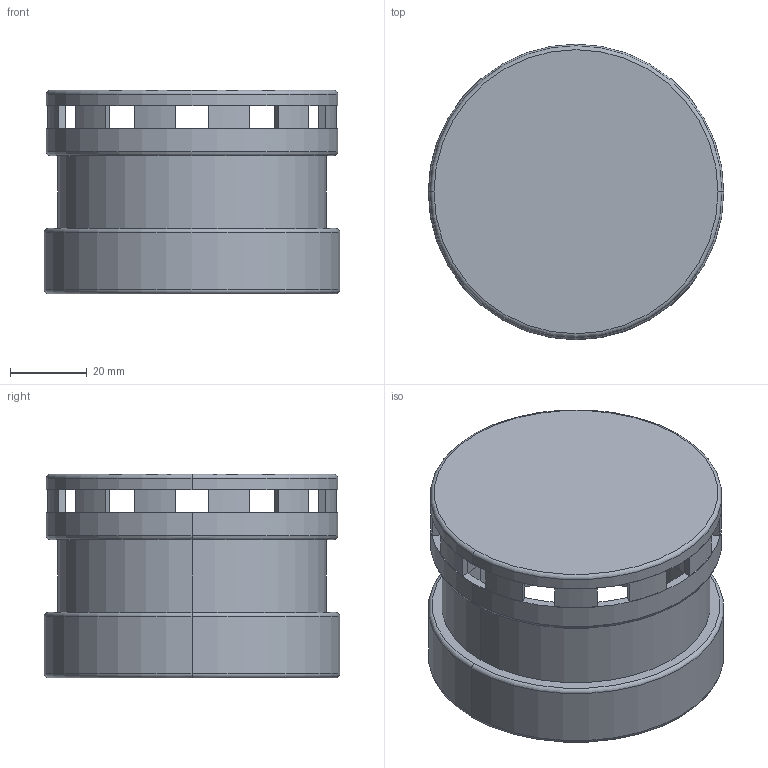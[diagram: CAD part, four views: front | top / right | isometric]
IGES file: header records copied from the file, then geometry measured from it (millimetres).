
Start section: IGES file generated by C3D Converter 1.6 translator by C3D Labs., translator version IGESOUT-5.1.
Global section: file name: HC:\Users\填眍\OneDrive\Desktop\箨鑌TL70\纛痨囹\署赅.igs; preprocessor: 1.0; author: 填眍,7; organization: Hunknown; date: -17760826:041926; units: millimetre
Bounding box: 77 x 77 x 53 mm (x, y, z)
Volume: 38737 mm3; surface area: 34452.1 mm2
Topology: 1 solids, 1 shells, 70 faces, 214 edges, 140 vertices
Faces by surface type: revolution 36, bspline 34
